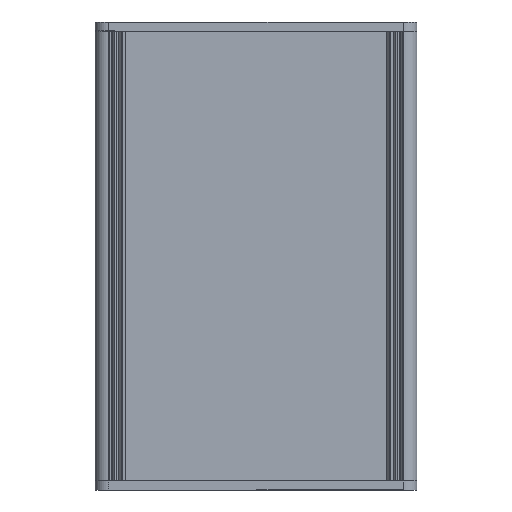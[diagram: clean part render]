
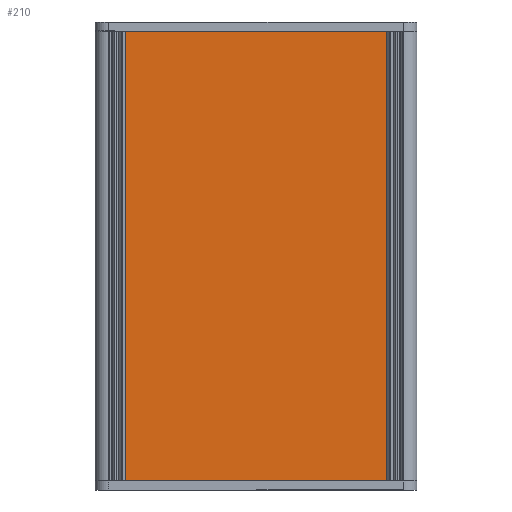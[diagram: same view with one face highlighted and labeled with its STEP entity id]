
A CAD part, front view. The second image highlights one B-rep face of the part: STEP entity #210.
In plain terms, the highlighted planar face has unit normal (0, -1, 0).
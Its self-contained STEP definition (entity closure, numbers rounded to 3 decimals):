
#152=CARTESIAN_POINT('',(64.8,-10.28,100.0));
#153=VERTEX_POINT('',#152);
#161=CARTESIAN_POINT('',(64.8,-10.28,0.0));
#162=VERTEX_POINT('',#161);
#163=CARTESIAN_POINT('',(64.8,-10.28,0.0));
#164=DIRECTION('',(0.0,0.0,1.0));
#165=VECTOR('',#164,100.0);
#166=LINE('',#163,#165);
#167=EDGE_CURVE('',#162,#153,#166,.T.);
#180=CARTESIAN_POINT('',(64.8,-10.28,0.0));
#181=DIRECTION('',(0.0,-1.0,0.0));
#182=DIRECTION('',(0.0,0.0,-1.0));
#183=AXIS2_PLACEMENT_3D('',#180,#181,#182);
#184=PLANE('',#183);
#185=CARTESIAN_POINT('',(6.7,-10.28,100.0));
#186=VERTEX_POINT('',#185);
#187=CARTESIAN_POINT('',(64.8,-10.28,100.0));
#188=DIRECTION('',(-1.0,0.0,0.0));
#189=VECTOR('',#188,58.1);
#190=LINE('',#187,#189);
#191=EDGE_CURVE('',#153,#186,#190,.T.);
#192=ORIENTED_EDGE('',*,*,#191,.T.);
#193=CARTESIAN_POINT('',(6.7,-10.28,0.0));
#194=VERTEX_POINT('',#193);
#195=CARTESIAN_POINT('',(6.7,-10.28,0.0));
#196=DIRECTION('',(0.0,0.0,1.0));
#197=VECTOR('',#196,100.0);
#198=LINE('',#195,#197);
#199=EDGE_CURVE('',#194,#186,#198,.T.);
#200=ORIENTED_EDGE('',*,*,#199,.F.);
#201=CARTESIAN_POINT('',(6.7,-10.28,0.0));
#202=DIRECTION('',(1.0,0.0,0.0));
#203=VECTOR('',#202,58.1);
#204=LINE('',#201,#203);
#205=EDGE_CURVE('',#194,#162,#204,.T.);
#206=ORIENTED_EDGE('',*,*,#205,.T.);
#207=ORIENTED_EDGE('',*,*,#167,.T.);
#208=EDGE_LOOP('',(#192,#200,#206,#207));
#209=FACE_OUTER_BOUND('',#208,.T.);
#210=ADVANCED_FACE('',(#209),#184,.T.);
